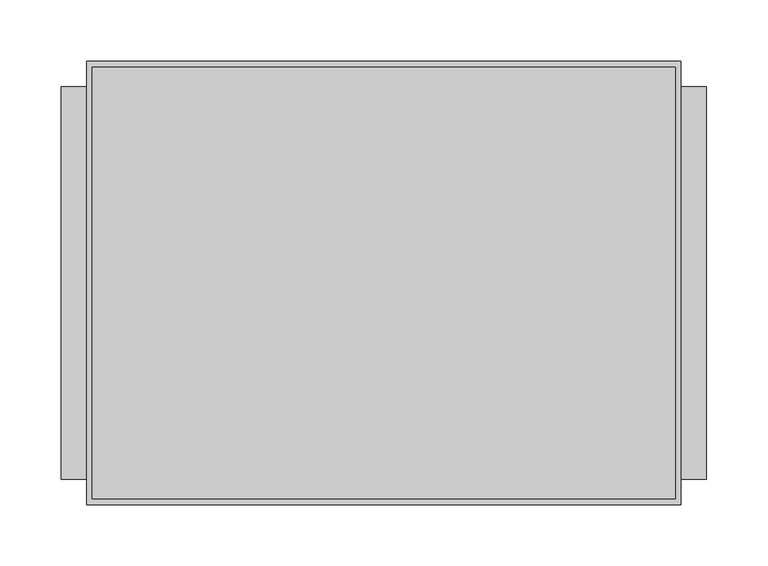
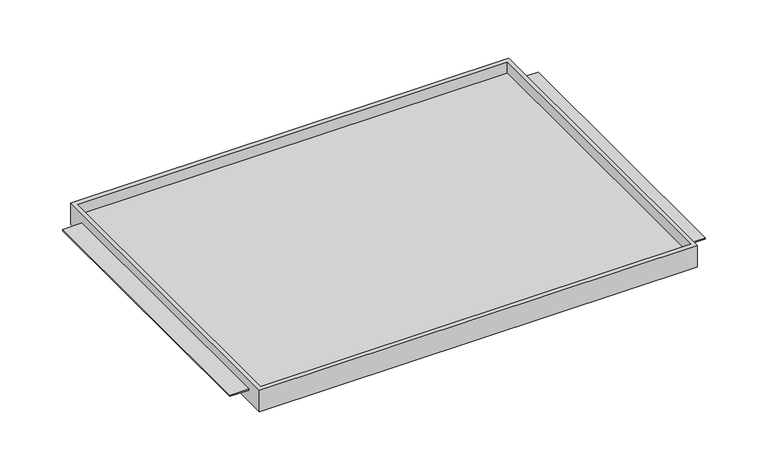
"""IFC4 building model written with IfcOpenShell, lengths in millimetres: furniture geometry."""

from ifc_helpers import new_model, si_unit, origin, place, context, project, spatial, faceted_brep, source, transform, mapped, element, save


def furniture_e3b85a83(model_context):
    return source(origin(), model_context, "Body", "Brep", [
        faceted_brep([(-242.7689646, -180.975, 1536.7), (242.7689646, -180.975, 1536.7), (242.7689646, -180.975, 1562.1), (-242.7689646, -180.975, 1562.1), (-242.7689646, 180.975, 1536.7), (-242.7689646, 180.975, 1562.1), (242.7689646, 180.975, 1562.1), (242.7689646, 180.975, 1536.7), (242.7689646, -160.3374879, 1551.0002), (242.7689646, 160.3374879, 1551.0002), (242.7689646, 160.3374879, 1549.4), (242.7689646, -160.3374879, 1549.4), (238.125, -176.2125, 1562.1), (-238.125, -176.2125, 1562.1), (-238.125, 175.91278, 1562.1), (238.125, 175.91278, 1562.1), (-242.7689646, 160.3374879, 1551.0002), (-242.7689646, -160.3374879, 1551.0002), (-242.7689646, -160.3374879, 1549.4), (-242.7689646, 160.3374879, 1549.4), (-238.125, -176.2125, 1549.4), (238.125, -176.2125, 1549.4), (238.125, 175.91278, 1549.4), (-238.125, 175.91278, 1549.4), (-263.525, 160.3374879, 1551.0002), (-263.525, -160.3374879, 1551.0002), (263.525, -160.3374879, 1551.0002), (263.525, 160.3374879, 1551.0002), (-263.525, -160.3374879, 1549.4), (-263.525, 160.3374879, 1549.4), (263.525, -160.3374879, 1549.4), (263.525, 160.3374879, 1549.4)], [[[0, 1, 2, 3]], [[4, 5, 6, 7]], [[1, 0, 4, 7]], [[2, 1, 7, 6], [8, 9, 10, 11]], [[3, 2, 6, 5], [12, 13, 14, 15]], [[0, 3, 5, 4], [16, 17, 18, 19]], [[20, 21, 22, 23]], [[21, 20, 13, 12]], [[22, 21, 12, 15]], [[23, 22, 15, 14]], [[20, 23, 14, 13]], [[16, 24, 25, 17]], [[26, 27, 9, 8]], [[18, 28, 29, 19]], [[30, 11, 10, 31]], [[24, 16, 19, 29]], [[25, 24, 29, 28]], [[17, 25, 28, 18]], [[27, 26, 30, 31]], [[9, 27, 31, 10]], [[26, 8, 11, 30]]]),
    ])


if __name__ == "__main__":
    model = new_model("IFC4")
    model_context = context("Model", 3, world=origin())
    ifc_project = project(units=[si_unit("LENGTHUNIT", "METRE", prefix="MILLI")], contexts=[model_context])
    site = spatial("IfcSite", under=ifc_project)
    building = spatial("IfcBuilding", under=site)
    placement = place(None, origin())
    furniture_shape = furniture_e3b85a83(model_context)
    element("IfcFurniture", 1, ObjectType="HermanMiller_CoStruc_CO203_CTrayShelf : 14\"D x 20\"W", at=placement, inside=building, context=model_context, shape_type="MappedRepresentation", body=[
        mapped(furniture_shape, transform((0.0, 0.0, 0.0), x_axis=(1.0, 0.0, 0.0), y_axis=(0.0, 1.0, 0.0), z_axis=(0.0, 0.0, 1.0))),
    ])
    save(model, "model.ifc")
